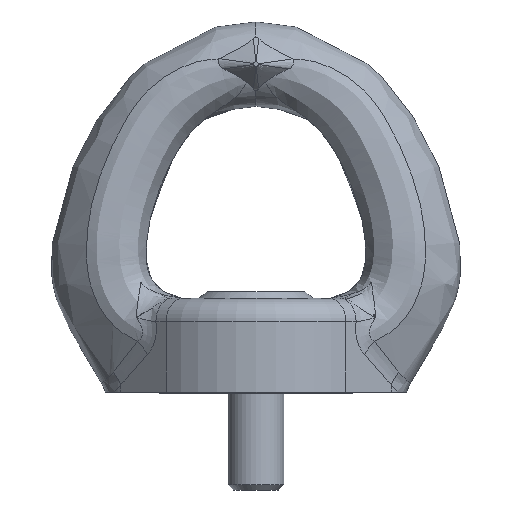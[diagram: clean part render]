
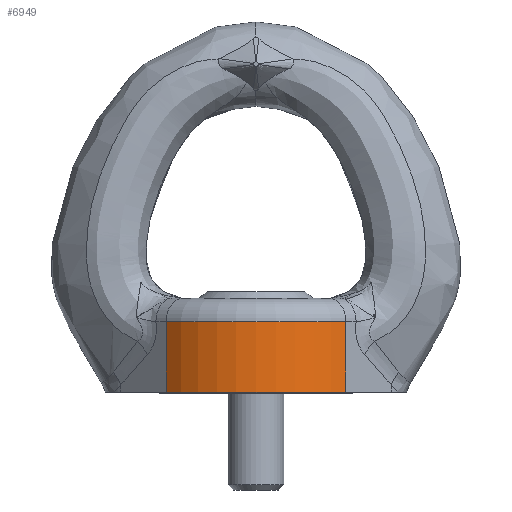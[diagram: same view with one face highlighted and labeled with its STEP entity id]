
A CAD part, front view. The second image highlights one B-rep face of the part: STEP entity #6949.
In plain terms, the highlighted cylindrical face has radius 27 mm (diameter 54 mm), a partial arc.
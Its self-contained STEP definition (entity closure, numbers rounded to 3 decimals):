
#1067=LINE('',#23919,#1388);
#1073=LINE('',#24892,#1394);
#1388=VECTOR('',#8585,10.);
#1394=VECTOR('',#8631,10.);
#1910=FACE_OUTER_BOUND('',#2355,.T.);
#2355=EDGE_LOOP('',(#6312,#6313,#6314,#6315));
#2604=CIRCLE('',#7446,27.);
#2606=CIRCLE('',#7450,27.);
#3349=VERTEX_POINT('',#23850);
#3353=VERTEX_POINT('',#23917);
#3363=VERTEX_POINT('',#24848);
#3365=VERTEX_POINT('',#24891);
#4348=EDGE_CURVE('',#3349,#3353,#1067,.F.);
#4371=EDGE_CURVE('',#3363,#3349,#2604,.T.);
#4374=EDGE_CURVE('',#3363,#3365,#1073,.F.);
#4378=EDGE_CURVE('',#3353,#3365,#2606,.T.);
#6312=ORIENTED_EDGE('',*,*,#4371,.T.);
#6313=ORIENTED_EDGE('',*,*,#4348,.T.);
#6314=ORIENTED_EDGE('',*,*,#4378,.T.);
#6315=ORIENTED_EDGE('',*,*,#4374,.F.);
#6535=CYLINDRICAL_SURFACE('',#7449,27.);
#6949=ADVANCED_FACE('',(#1910),#6535,.T.);
#7446=AXIS2_PLACEMENT_3D('',#24852,#8625,#8626);
#7449=AXIS2_PLACEMENT_3D('',#24913,#8634,#8635);
#7450=AXIS2_PLACEMENT_3D('',#24914,#8636,#8637);
#8585=DIRECTION('',(0.,0.,1.));
#8625=DIRECTION('center_axis',(0.,0.,-1.));
#8626=DIRECTION('ref_axis',(-0.387,-0.922,0.));
#8631=DIRECTION('',(0.,0.,1.));
#8634=DIRECTION('center_axis',(0.,0.,1.));
#8635=DIRECTION('ref_axis',(0.714,0.7,0.));
#8636=DIRECTION('center_axis',(0.,0.,1.));
#8637=DIRECTION('ref_axis',(-0.714,0.7,0.));
#23850=CARTESIAN_POINT('',(-19.272,-18.91,15.1));
#23917=CARTESIAN_POINT('',(-19.272,-18.91,0.));
#23919=CARTESIAN_POINT('',(-19.272,-18.91,0.));
#24848=CARTESIAN_POINT('',(19.272,-18.91,15.1));
#24852=CARTESIAN_POINT('Origin',(0.,0.,15.1));
#24891=CARTESIAN_POINT('',(19.272,-18.91,0.));
#24892=CARTESIAN_POINT('',(19.272,-18.91,0.));
#24913=CARTESIAN_POINT('Origin',(0.,0.,0.));
#24914=CARTESIAN_POINT('Origin',(0.,0.,0.));
